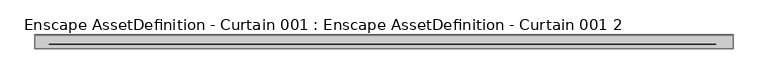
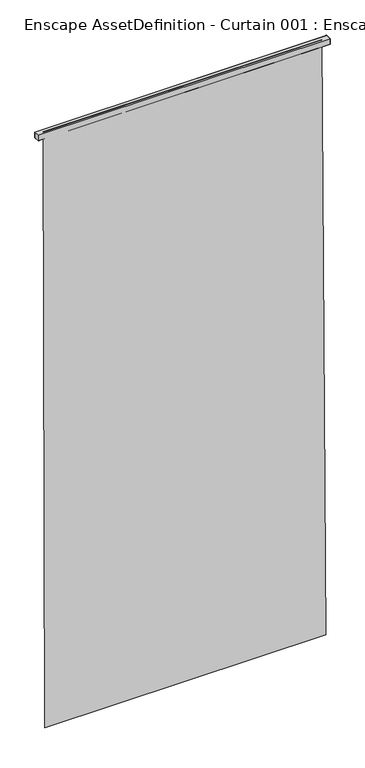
"""IFC4 building model written with IfcOpenShell, lengths in millimetres: geographic element geometry, Enscape AssetDefinition - Curtain 001 : Enscape AssetDefinition - Curtain 001 2."""

from ifc_helpers import new_model, si_unit, origin, place, context, project, spatial, triangles, source, transform, mapped, element, save


def enscape_assetdefinition_curtain_001_enscape_assetdefinition_ad6f74d6(model_context):
    return source(origin(), model_context, "Body", "Tessellation", [
        triangles([(628.7965027, -18.5458906, -4.47e-05), (-628.7965754, -27.479441, 2800.0000214), (636.7870033, -35.632845, 2771.9023178), (-655.0568184, -10.4574989, 2771.9020271), (-655.0568184, -10.4574989, 2797.5434853), (636.7870033, -10.4574989, 2771.9023178), (636.7870033, -10.4574989, 2797.5437759), (636.7870033, -35.632845, 2797.5437759), (-655.0568184, -35.6327996, 2771.9020271), (-655.0568184, -35.6327996, 2797.5434853), (-615.5850998, -18.5458906, 0.0), (604.3834216, -27.479441, 2800.0000214)], [[11, 1, 12], [11, 12, 2], [7, 6, 4], [8, 7, 5], [3, 8, 10], [6, 3, 9], [4, 9, 10], [6, 7, 8], [7, 4, 5], [8, 5, 10], [3, 10, 9], [6, 9, 4], [4, 10, 5], [6, 8, 3]], closed=False),
    ])


if __name__ == "__main__":
    model = new_model("IFC4")
    model_context = context("Model", 3, world=origin())
    ifc_project = project(units=[si_unit("LENGTHUNIT", "METRE", prefix="MILLI")], contexts=[model_context])
    site = spatial("IfcSite", under=ifc_project)
    building = spatial("IfcBuilding", under=site)
    placement = place(None, origin())
    enscape_assetdefinition_curtain_001_enscape_assetdefinition_shape = enscape_assetdefinition_curtain_001_enscape_assetdefinition_ad6f74d6(model_context)
    element("IfcGeographicElement", 1, ObjectType="Enscape AssetDefinition - Curtain 001 : Enscape AssetDefinition - Curtain 001 2", at=placement, inside=building, context=model_context, shape_type="MappedRepresentation", body=[
        mapped(enscape_assetdefinition_curtain_001_enscape_assetdefinition_shape, transform((0.0, 0.0, 0.0), x_axis=(1.0, 0.0, 0.0), y_axis=(0.0, 1.0, 0.0), z_axis=(0.0, 0.0, 1.0))),
    ])
    save(model, "model.ifc")
